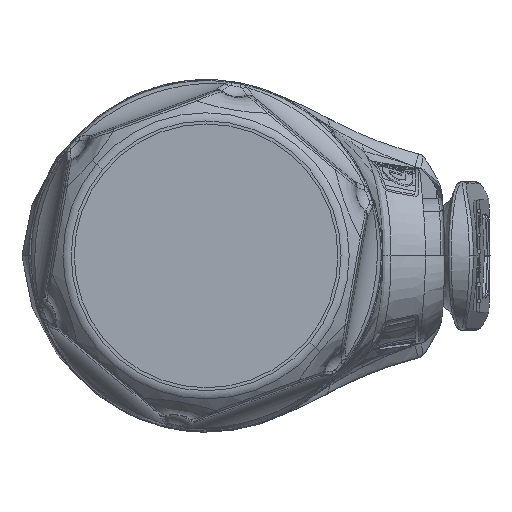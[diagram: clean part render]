
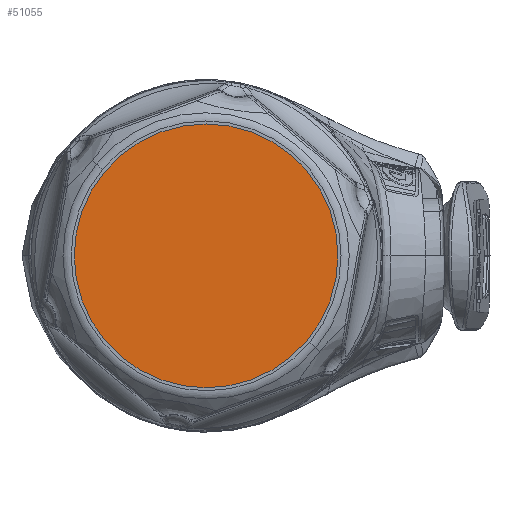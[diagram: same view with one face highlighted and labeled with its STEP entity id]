
A CAD part, left-side view. The second image highlights one B-rep face of the part: STEP entity #51055.
In plain terms, the highlighted planar face has unit normal (-1, 0, 0).
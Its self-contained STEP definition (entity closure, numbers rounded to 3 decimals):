
#2828 = CARTESIAN_POINT ( 'NONE',  ( -59.322, 0., 10.768 ) ) ;
#2903 = DIRECTION ( 'NONE',  ( 0., 0., -1. ) ) ;
#4156 = PLANE ( 'NONE',  #18533 ) ;
#4927 = AXIS2_PLACEMENT_3D ( 'NONE', #50724, #5502, #83992 ) ;
#5502 = DIRECTION ( 'NONE',  ( 1., 0., 0. ) ) ;
#8862 = VERTEX_POINT ( 'NONE', #2828 ) ;
#18533 = AXIS2_PLACEMENT_3D ( 'NONE', #36133, #30154, #23742 ) ;
#21960 = CIRCLE ( 'NONE', #60185, 10.768 ) ;
#23742 = DIRECTION ( 'NONE',  ( 0., 0., -1. ) ) ;
#25606 = EDGE_LOOP ( 'NONE', ( #74932, #64994 ) ) ;
#29760 = EDGE_CURVE ( 'NONE', #41592, #8862, #44341, .T. ) ;
#30154 = DIRECTION ( 'NONE',  ( 1., 0., 0. ) ) ;
#34468 = DIRECTION ( 'NONE',  ( 1., 0., 0. ) ) ;
#36133 = CARTESIAN_POINT ( 'NONE',  ( -59.322, -10.768, 0. ) ) ;
#40928 = CARTESIAN_POINT ( 'NONE',  ( -59.322, 0., -10.768 ) ) ;
#41592 = VERTEX_POINT ( 'NONE', #40928 ) ;
#44341 = CIRCLE ( 'NONE', #4927, 10.768 ) ;
#50622 = FACE_OUTER_BOUND ( 'NONE', #25606, .T. ) ;
#50724 = CARTESIAN_POINT ( 'NONE',  ( -59.322, 0., 0. ) ) ;
#51055 = ADVANCED_FACE ( 'NONE', ( #50622 ), #4156, .F. ) ;
#60185 = AXIS2_PLACEMENT_3D ( 'NONE', #74121, #34468, #2903 ) ;
#64994 = ORIENTED_EDGE ( 'NONE', *, *, #75905, .F. ) ;
#74121 = CARTESIAN_POINT ( 'NONE',  ( -59.322, 0., 0. ) ) ;
#74932 = ORIENTED_EDGE ( 'NONE', *, *, #29760, .F. ) ;
#75905 = EDGE_CURVE ( 'NONE', #8862, #41592, #21960, .T. ) ;
#83992 = DIRECTION ( 'NONE',  ( 0., 0., -1. ) ) ;
